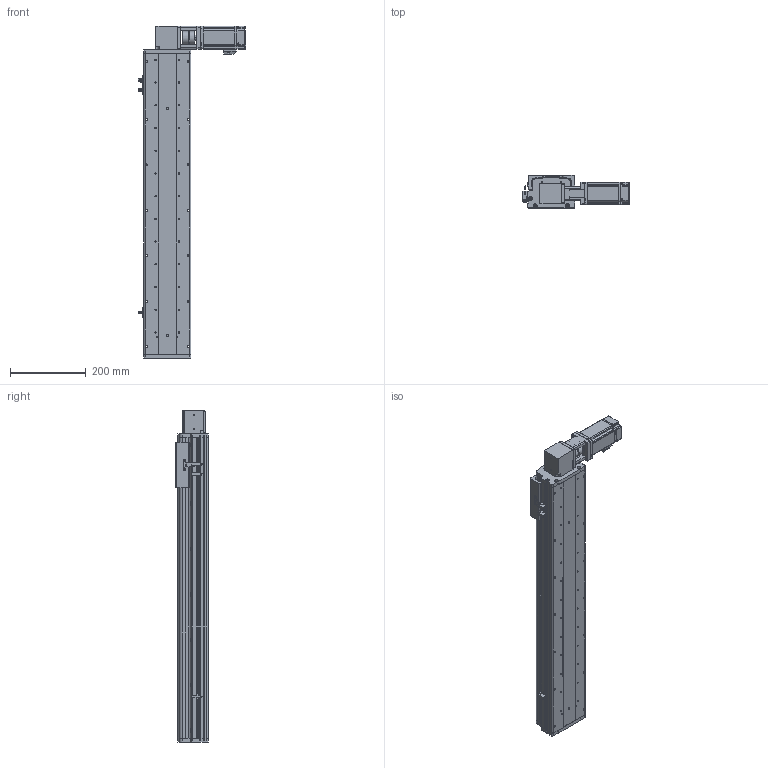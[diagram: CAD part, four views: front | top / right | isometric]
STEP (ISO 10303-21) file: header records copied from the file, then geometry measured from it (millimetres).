
FILE_DESCRIPTION (( 'STEP AP214' ), '1' );
FILE_NAME ('KSD125B-S600-MRT-CM.STEP', '2017-10-21T06:54:40', ( '微软用户' ), ( '微软中国' ), 'SwSTEP 2.0', 'SolidWorks 2014', '' );
FILE_SCHEMA (( 'AUTOMOTIVE_DESIGN' ));
Length unit declared in the file: millimetre
Products named in the file (16): CS-34X32-10X14; 100遵鎮湛假蚾啣1 ; 覜茼え68遵圉猾敕; U倰嫖萇假蚾璃; U倰嫖萇EEㄜSX672; KSD125模组同步带-防撞垫1; 100宽安装板同步带带电机座400W,86; 前端板-125宽模组同步带; 125模组同步带-尾端板1; KSD125模组同步带-滑动座1; KSD125B-S600-MRT-CM; 100宽马达安装板同步带左; KSD125模组600行程同步带-防尘盖; 125模组600行程同步带-底板; MHMD042G1CA_2_03; KSD125模组同步带-防撞垫2
Assembly tree (19 placements, depth 2):
  KSD125B-S600-MRT-CM
    KSD125模组同步带-滑动座1
    125模组同步带-尾端板1
    前端板-125宽模组同步带
    100宽安装板同步带带电机座400W,86
    KSD125模组同步带-防撞垫1
    U倰嫖萇EEㄜSX672  x3
    U倰嫖萇假蚾璃  x3
    覜茼え68遵圉猾敕
    100遵鎮湛假蚾啣1 
    CS-34X32-10X14
    KSD125模组同步带-防撞垫2
    MHMD042G1CA_2_03
    125模组600行程同步带-底板
    KSD125模组600行程同步带-防尘盖
    100宽马达安装板同步带左
Bounding box: 282.7 x 86 x 877 mm (x, y, z)
Volume: 2841805.9 mm3; surface area: 951328 mm2
Topology: 18 solids, 21 shells, 1660 faces, 4756 edges, 3136 vertices
Faces by surface type: cylinder 857, plane 700, cone 81, bspline 22
Entity records: 58176 total; most frequent: CARTESIAN_POINT 11786, DIRECTION 8507, ORIENTED_EDGE 8032, EDGE_CURVE 4094, AXIS2_PLACEMENT_3D 3153, VERTEX_POINT 2728, LINE 2201, VECTOR 2201
